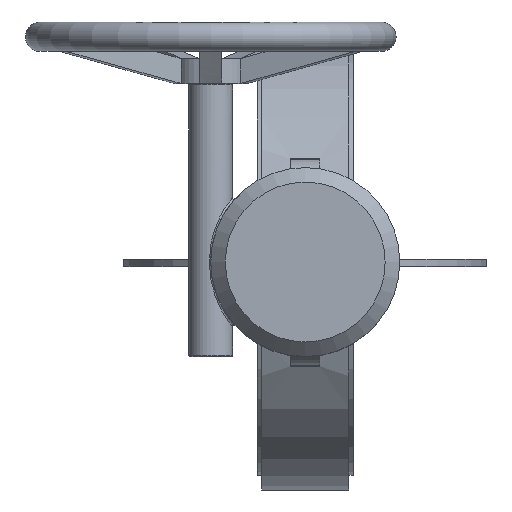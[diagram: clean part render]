
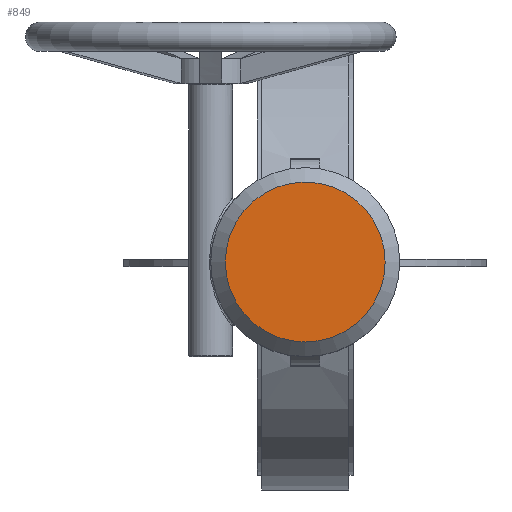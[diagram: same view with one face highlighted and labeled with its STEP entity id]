
A CAD part, top view. The second image highlights one B-rep face of the part: STEP entity #849.
In plain terms, the highlighted planar face has unit normal (0, 0, 1).
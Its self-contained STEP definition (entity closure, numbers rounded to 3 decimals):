
#849=ADVANCED_FACE('',(#2633),#2635,.T.);
#2633=FACE_BOUND('',#2634,.T.);
#2634=EDGE_LOOP('',(#3377));
#2635=PLANE('',#2636);
#2636=AXIS2_PLACEMENT_3D('',#2637,#2638,#2639);
#2637=CARTESIAN_POINT('',(0.,0.,338.));
#2638=DIRECTION('',(0.,0.,1.));
#2639=DIRECTION('',(-1.,0.,0.));
#3377=ORIENTED_EDGE('',*,*,#3747,.T.);
#3747=EDGE_CURVE('',#4163,#4163,#4164,.T.);
#4163=VERTEX_POINT('',#5902);
#4164=CIRCLE('',#5903,55.);
#5902=CARTESIAN_POINT('',(-55.,0.,338.));
#5903=AXIS2_PLACEMENT_3D('',#5904,#5905,#5906);
#5904=CARTESIAN_POINT('',(0.,0.,338.));
#5905=DIRECTION('',(0.,0.,1.));
#5906=DIRECTION('',(-1.,0.,0.));
